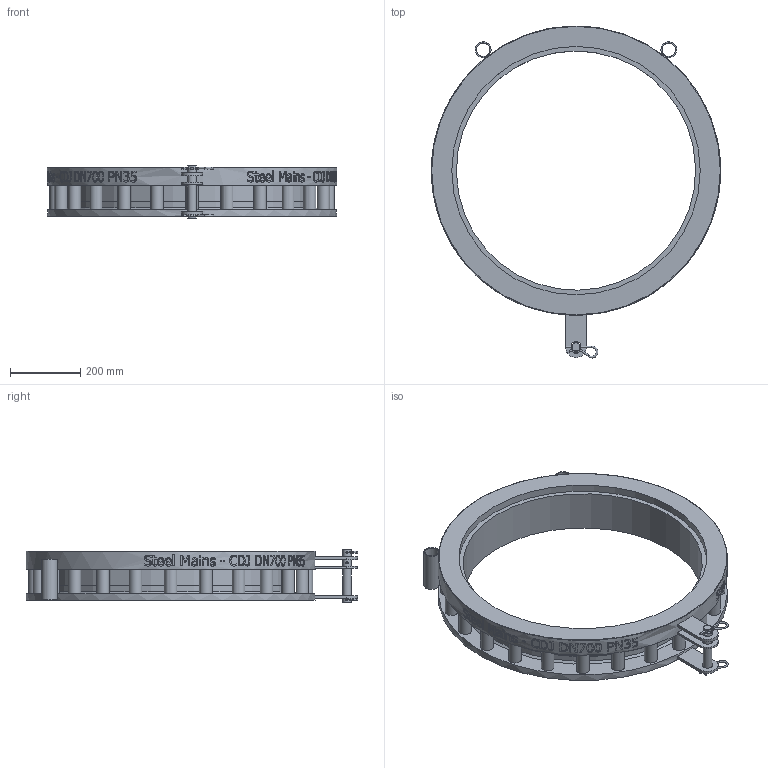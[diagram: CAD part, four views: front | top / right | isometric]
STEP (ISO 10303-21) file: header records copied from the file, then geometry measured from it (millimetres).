
FILE_DESCRIPTION(/* description */ (''),/* implementation_level */ '2;1');
FILE_NAME(/* name */ 'C:\Vault\Designs\Somerton\196\196-40 Models\Marketing Files\SteelMains - CDJ DN700 PN35 - (196-40T rev C).stp',/* time_stamp */ '2025-09-29T11:55:32+10:00',/* author */ ('Sam.Cavallaro'),/* organization */ (''),/* preprocessor_version */ 'ST-DEVELOPER v18.1',/* originating_system */ 'Autodesk Inventor 2021',/* authorisation */ '');
FILE_SCHEMA (('AUTOMOTIVE_DESIGN { 1 0 10303 214 3 1 1 }'));
Length unit declared in the file: millimetre
Products named in the file (1): SPS_ENG-084843
Bounding box: 821 x 942.22 x 151 mm (x, y, z)
Volume: 14972365 mm3; surface area: 1512283.6 mm2
Topology: 6 solids, 6 shells, 827 faces, 2250 edges, 1501 vertices
Faces by surface type: bspline 392, plane 303, cylinder 119, torus 8, cone 5
Full cylindrical faces by diameter (mm): 4.8 x10, 6 x3, 25 x1, 30 x3, 36 x24, 38.1 x2, 44.5 x2, 679 x1, 699 x1, 703 x1, 705 x1, 821 x1
Entity records: 36457 total; most frequent: CARTESIAN_POINT 17503, ORIENTED_EDGE 4506, DIRECTION 2735, EDGE_CURVE 2253, VERTEX_POINT 1504, LINE 1035, VECTOR 1035, EDGE_LOOP 959
